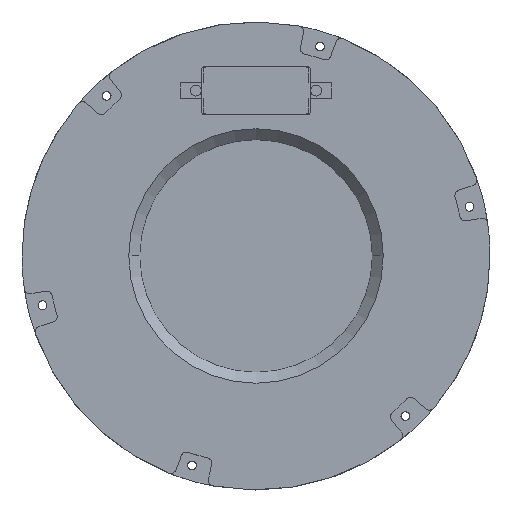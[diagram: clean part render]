
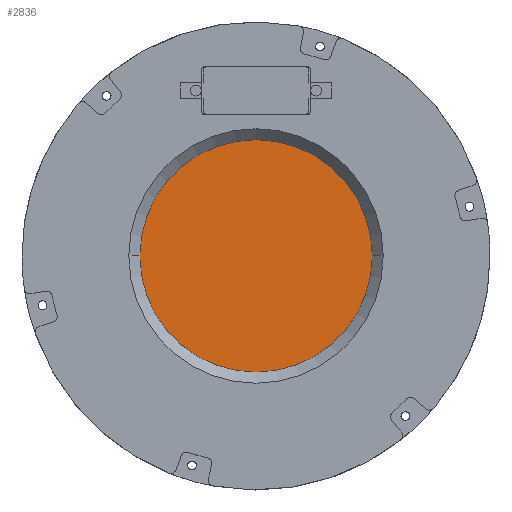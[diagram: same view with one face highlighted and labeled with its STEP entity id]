
A CAD part, top view. The second image highlights one B-rep face of the part: STEP entity #2836.
In plain terms, the highlighted planar face has unit normal (0, 0, 1).
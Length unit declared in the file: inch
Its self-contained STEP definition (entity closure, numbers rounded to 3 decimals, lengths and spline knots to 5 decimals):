
#102 = PLANE ( 'NONE',  #4163 ) ;
#306 = EDGE_CURVE ( 'NONE', #2495, #1656, #5018, .T. ) ;
#379 = DIRECTION ( 'NONE',  ( 1., 0., 0. ) ) ;
#1503 = AXIS2_PLACEMENT_3D ( 'NONE', #3550, #2378, #379 ) ;
#1656 = VERTEX_POINT ( 'NONE', #4421 ) ;
#1707 = DIRECTION ( 'NONE',  ( -1., 0., 0. ) ) ;
#1944 = EDGE_CURVE ( 'NONE', #1656, #2495, #4098, .T. ) ;
#2318 = CARTESIAN_POINT ( 'NONE',  ( 0., 0., 0.085 ) ) ;
#2378 = DIRECTION ( 'NONE',  ( 0., 0., 1. ) ) ;
#2495 = VERTEX_POINT ( 'NONE', #3823 ) ;
#2836 = ADVANCED_FACE ( 'NONE', ( #3693 ), #102, .F. ) ;
#2900 = CARTESIAN_POINT ( 'NONE',  ( 0., 1.28, 0.085 ) ) ;
#3108 = DIRECTION ( 'NONE',  ( 0., 0., 1. ) ) ;
#3274 = AXIS2_PLACEMENT_3D ( 'NONE', #2318, #3108, #4696 ) ;
#3550 = CARTESIAN_POINT ( 'NONE',  ( 0., 0., 0.085 ) ) ;
#3594 = ORIENTED_EDGE ( 'NONE', *, *, #306, .T. ) ;
#3693 = FACE_OUTER_BOUND ( 'NONE', #4775, .T. ) ;
#3823 = CARTESIAN_POINT ( 'NONE',  ( -1.28, 0., 0.085 ) ) ;
#3844 = ORIENTED_EDGE ( 'NONE', *, *, #1944, .T. ) ;
#4098 = CIRCLE ( 'NONE', #1503, 1.28 ) ;
#4163 = AXIS2_PLACEMENT_3D ( 'NONE', #2900, #4891, #1707 ) ;
#4421 = CARTESIAN_POINT ( 'NONE',  ( 1.28, 0., 0.085 ) ) ;
#4696 = DIRECTION ( 'NONE',  ( 1., 0., 0. ) ) ;
#4775 = EDGE_LOOP ( 'NONE', ( #3844, #3594 ) ) ;
#4891 = DIRECTION ( 'NONE',  ( 0., 0., -1. ) ) ;
#5018 = CIRCLE ( 'NONE', #3274, 1.28 ) ;
